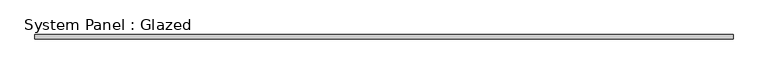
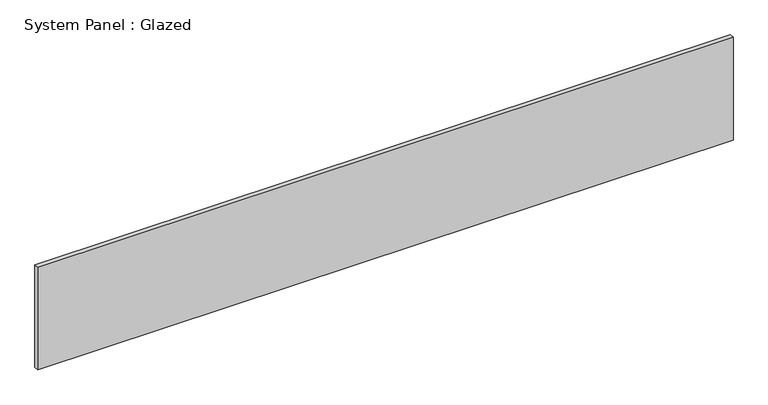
"""IFC4 building model written with IfcOpenShell, lengths in millimetres: plate geometry, System Panel : Glazed."""

from ifc_helpers import new_model, si_unit, origin, origin_with_axes, place, context, project, spatial, polyline, outline, extrude, source, transform, mapped, element, save


def system_panel_glazed_8999bfa8(model_context):
    return source(origin(), model_context, "Body", "SweptSolid", [
        extrude(outline(polyline([(1925.0, 24.5), (-1925.0, 24.5), (-1925.0, 49.5), (1925.0, 49.5), (1925.0, 24.5)])), origin_with_axes(), (0.0, 0.0, 1.0), 600.0),
    ])


if __name__ == "__main__":
    model = new_model("IFC4")
    model_context = context("Model", 3, world=origin())
    ifc_project = project(units=[si_unit("LENGTHUNIT", "METRE", prefix="MILLI")], contexts=[model_context])
    site = spatial("IfcSite", under=ifc_project)
    building = spatial("IfcBuilding", under=site)
    placement = place(None, origin())
    system_panel_glazed_shape = system_panel_glazed_8999bfa8(model_context)
    element("IfcPlate", 1, ObjectType="System Panel : Glazed", at=placement, inside=building, context=model_context, shape_type="MappedRepresentation", body=[
        mapped(system_panel_glazed_shape, transform((0.0, 0.0, 0.0), x_axis=(1.0, 0.0, 0.0), y_axis=(0.0, 1.0, 0.0), z_axis=(0.0, 0.0, 1.0))),
    ])
    save(model, "model.ifc")
